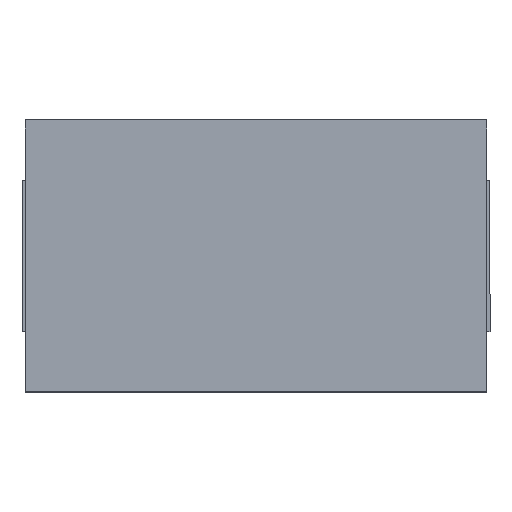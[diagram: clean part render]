
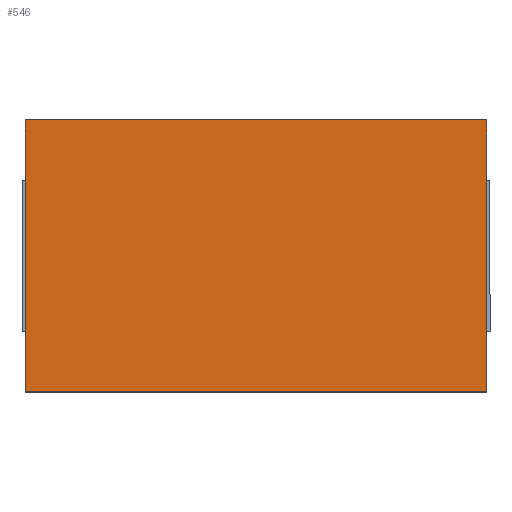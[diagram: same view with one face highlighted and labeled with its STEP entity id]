
A CAD part, top view. The second image highlights one B-rep face of the part: STEP entity #546.
In plain terms, the highlighted planar face has unit normal (0, 0, 1).
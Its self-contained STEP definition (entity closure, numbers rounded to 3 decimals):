
#48=FACE_OUTER_BOUND('',#78,.T.);
#78=EDGE_LOOP('',(#427,#428,#429,#430));
#119=LINE('',#802,#191);
#124=LINE('',#812,#196);
#127=LINE('',#817,#199);
#129=LINE('',#820,#201);
#191=VECTOR('',#647,4.3);
#196=VECTOR('',#654,4.3);
#199=VECTOR('',#659,7.3);
#201=VECTOR('',#663,7.3);
#256=VERTEX_POINT('',#799);
#257=VERTEX_POINT('',#801);
#260=VERTEX_POINT('',#809);
#261=VERTEX_POINT('',#811);
#311=EDGE_CURVE('',#256,#257,#119,.T.);
#316=EDGE_CURVE('',#260,#261,#124,.T.);
#319=EDGE_CURVE('',#261,#256,#127,.T.);
#321=EDGE_CURVE('',#257,#260,#129,.T.);
#427=ORIENTED_EDGE('',*,*,#316,.F.);
#428=ORIENTED_EDGE('',*,*,#321,.F.);
#429=ORIENTED_EDGE('',*,*,#311,.F.);
#430=ORIENTED_EDGE('',*,*,#319,.F.);
#516=PLANE('',#580);
#546=ADVANCED_FACE('',(#48),#516,.T.);
#580=AXIS2_PLACEMENT_3D('',#823,#667,#668);
#647=DIRECTION('',(0.,-1.,0.));
#654=DIRECTION('',(0.,1.,0.));
#659=DIRECTION('',(1.,0.,0.));
#663=DIRECTION('',(-1.,0.,0.));
#667=DIRECTION('center_axis',(0.,0.,1.));
#668=DIRECTION('ref_axis',(1.,0.,0.));
#799=CARTESIAN_POINT('',(8.75,4.721,1.));
#801=CARTESIAN_POINT('',(8.75,0.421,1.));
#802=CARTESIAN_POINT('',(8.75,0.421,1.));
#809=CARTESIAN_POINT('',(1.45,0.421,1.));
#811=CARTESIAN_POINT('',(1.45,4.721,1.));
#812=CARTESIAN_POINT('',(1.45,4.721,1.));
#817=CARTESIAN_POINT('',(8.75,4.721,1.));
#820=CARTESIAN_POINT('',(1.45,0.421,1.));
#823=CARTESIAN_POINT('Origin',(5.1,2.571,1.));
